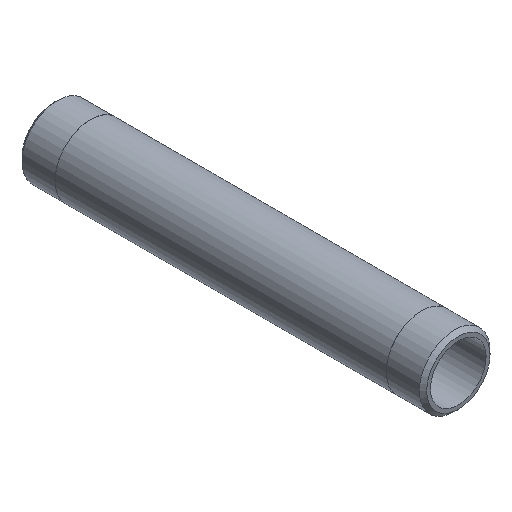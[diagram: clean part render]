
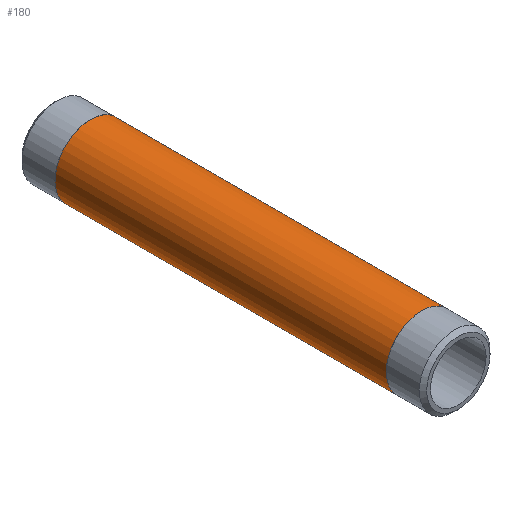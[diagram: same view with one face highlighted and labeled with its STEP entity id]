
A CAD part, isometric view. The second image highlights one B-rep face of the part: STEP entity #180.
In plain terms, the highlighted cylindrical face has radius 13.335 mm (diameter 26.67 mm), a full revolution.
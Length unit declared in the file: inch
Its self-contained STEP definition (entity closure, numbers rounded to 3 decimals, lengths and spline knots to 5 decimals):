
#25=CYLINDRICAL_SURFACE('',#220,0.525);
#34=FACE_OUTER_BOUND('',#47,.T.);
#47=EDGE_LOOP('',(#155,#156,#157,#158,#159,#160));
#55=LINE('',#338,#61);
#61=VECTOR('',#283,0.525);
#77=CIRCLE('',#218,0.525);
#78=CIRCLE('',#219,0.525);
#79=CIRCLE('',#221,0.525);
#80=CIRCLE('',#222,0.525);
#95=VERTEX_POINT('',#329);
#96=VERTEX_POINT('',#330);
#97=VERTEX_POINT('',#334);
#98=VERTEX_POINT('',#335);
#117=EDGE_CURVE('',#95,#96,#77,.T.);
#118=EDGE_CURVE('',#96,#95,#78,.T.);
#119=EDGE_CURVE('',#97,#98,#79,.T.);
#120=EDGE_CURVE('',#98,#97,#80,.T.);
#121=EDGE_CURVE('',#98,#96,#55,.T.);
#155=ORIENTED_EDGE('',*,*,#119,.F.);
#156=ORIENTED_EDGE('',*,*,#120,.F.);
#157=ORIENTED_EDGE('',*,*,#121,.T.);
#158=ORIENTED_EDGE('',*,*,#118,.T.);
#159=ORIENTED_EDGE('',*,*,#117,.T.);
#160=ORIENTED_EDGE('',*,*,#121,.F.);
#180=ADVANCED_FACE('',(#34),#25,.T.);
#218=AXIS2_PLACEMENT_3D('',#331,#273,#274);
#219=AXIS2_PLACEMENT_3D('',#332,#275,#276);
#220=AXIS2_PLACEMENT_3D('',#333,#277,#278);
#221=AXIS2_PLACEMENT_3D('',#336,#279,#280);
#222=AXIS2_PLACEMENT_3D('',#337,#281,#282);
#273=DIRECTION('center_axis',(0.,-1.,0.));
#274=DIRECTION('ref_axis',(1.,0.,0.));
#275=DIRECTION('center_axis',(0.,-1.,0.));
#276=DIRECTION('ref_axis',(1.,0.,0.));
#277=DIRECTION('center_axis',(0.,-1.,0.));
#278=DIRECTION('ref_axis',(0.,0.,-1.));
#279=DIRECTION('center_axis',(0.,-1.,0.));
#280=DIRECTION('ref_axis',(1.,0.,0.));
#281=DIRECTION('center_axis',(0.,-1.,0.));
#282=DIRECTION('ref_axis',(1.,0.,0.));
#283=DIRECTION('',(0.,1.,0.));
#329=CARTESIAN_POINT('',(0.,5.455,-0.525));
#330=CARTESIAN_POINT('',(0.,5.455,0.525));
#331=CARTESIAN_POINT('Origin',(0.,5.455,0.));
#332=CARTESIAN_POINT('Origin',(0.,5.455,0.));
#333=CARTESIAN_POINT('Origin',(0.,3.,0.));
#334=CARTESIAN_POINT('',(0.,0.545,-0.525));
#335=CARTESIAN_POINT('',(0.,0.545,0.525));
#336=CARTESIAN_POINT('Origin',(0.,0.545,0.));
#337=CARTESIAN_POINT('Origin',(0.,0.545,0.));
#338=CARTESIAN_POINT('',(0.,3.,0.525));
